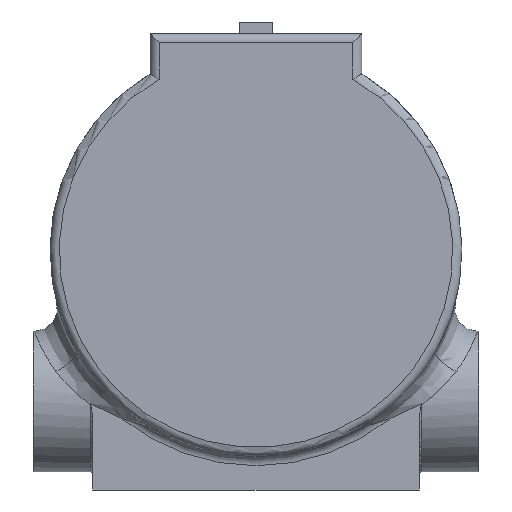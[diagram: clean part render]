
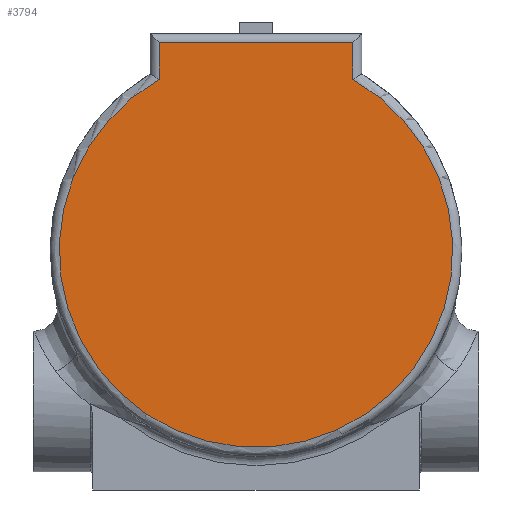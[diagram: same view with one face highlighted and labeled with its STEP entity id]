
A CAD part, front view. The second image highlights one B-rep face of the part: STEP entity #3794.
In plain terms, the highlighted planar face has unit normal (0, -1, 0).
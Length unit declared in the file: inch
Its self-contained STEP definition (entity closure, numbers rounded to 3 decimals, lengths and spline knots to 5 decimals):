
#598 = EDGE_CURVE ( 'NONE', #8360, #1935, #7130, .T. ) ;
#607 = DIRECTION ( 'NONE',  ( 0., 1., 0. ) ) ;
#843 = DIRECTION ( 'NONE',  ( 0., 0., -1. ) ) ;
#933 = AXIS2_PLACEMENT_3D ( 'NONE', #2020, #607, #5654 ) ;
#955 = ORIENTED_EDGE ( 'NONE', *, *, #2633, .T. ) ;
#1678 = CARTESIAN_POINT ( 'NONE',  ( 1.05625, 0., 2.273 ) ) ;
#1935 = VERTEX_POINT ( 'NONE', #8312 ) ;
#2020 = CARTESIAN_POINT ( 'NONE',  ( 0., 0., 0. ) ) ;
#2080 = CARTESIAN_POINT ( 'NONE',  ( -1.05625, 0., 1.87265 ) ) ;
#2281 = CARTESIAN_POINT ( 'NONE',  ( -1.05625, 0., 1.93018 ) ) ;
#2304 = LINE ( 'NONE', #8085, #5939 ) ;
#2567 = CARTESIAN_POINT ( 'NONE',  ( 0., 0., 0. ) ) ;
#2633 = EDGE_CURVE ( 'NONE', #6604, #8360, #2304, .T. ) ;
#3103 = AXIS2_PLACEMENT_3D ( 'NONE', #2567, #7631, #3302 ) ;
#3302 = DIRECTION ( 'NONE',  ( 0., 0., 1. ) ) ;
#3794 = ADVANCED_FACE ( 'NONE', ( #9051 ), #4933, .F. ) ;
#4744 = EDGE_LOOP ( 'NONE', ( #6091, #955, #7699, #6782 ) ) ;
#4933 = PLANE ( 'NONE',  #933 ) ;
#5159 = EDGE_CURVE ( 'NONE', #7388, #6604, #7603, .T. ) ;
#5171 = CARTESIAN_POINT ( 'NONE',  ( 1.05625, 0., 1.87265 ) ) ;
#5224 = VECTOR ( 'NONE', #7253, 39.37008 ) ;
#5654 = DIRECTION ( 'NONE',  ( 0., 0., 1. ) ) ;
#5939 = VECTOR ( 'NONE', #5950, 39.37008 ) ;
#5950 = DIRECTION ( 'NONE',  ( 0., 0., 1. ) ) ;
#6091 = ORIENTED_EDGE ( 'NONE', *, *, #5159, .T. ) ;
#6604 = VERTEX_POINT ( 'NONE', #5171 ) ;
#6608 = VECTOR ( 'NONE', #843, 39.37008 ) ;
#6782 = ORIENTED_EDGE ( 'NONE', *, *, #7664, .T. ) ;
#7130 = LINE ( 'NONE', #7987, #5224 ) ;
#7253 = DIRECTION ( 'NONE',  ( -1., 0., 0. ) ) ;
#7388 = VERTEX_POINT ( 'NONE', #2080 ) ;
#7603 = CIRCLE ( 'NONE', #3103, 2.15 ) ;
#7631 = DIRECTION ( 'NONE',  ( 0., -1., 0. ) ) ;
#7664 = EDGE_CURVE ( 'NONE', #1935, #7388, #8737, .T. ) ;
#7699 = ORIENTED_EDGE ( 'NONE', *, *, #598, .T. ) ;
#7987 = CARTESIAN_POINT ( 'NONE',  ( -1.15625, 0., 2.273 ) ) ;
#8085 = CARTESIAN_POINT ( 'NONE',  ( 1.05625, 0., 2.373 ) ) ;
#8312 = CARTESIAN_POINT ( 'NONE',  ( -1.05625, 0., 2.273 ) ) ;
#8360 = VERTEX_POINT ( 'NONE', #1678 ) ;
#8737 = LINE ( 'NONE', #2281, #6608 ) ;
#9051 = FACE_OUTER_BOUND ( 'NONE', #4744, .T. ) ;
